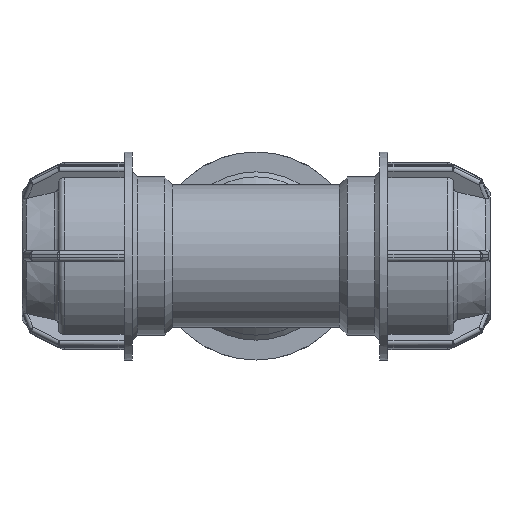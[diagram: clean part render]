
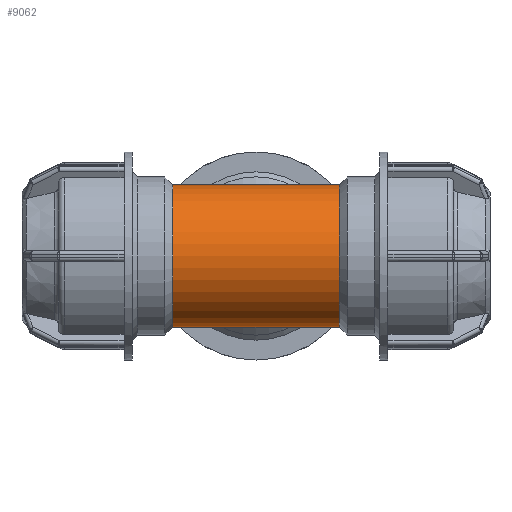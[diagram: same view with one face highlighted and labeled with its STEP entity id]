
A CAD part, front view. The second image highlights one B-rep face of the part: STEP entity #9062.
In plain terms, the highlighted cylindrical face has radius 31.5 mm (diameter 63 mm), a full revolution.
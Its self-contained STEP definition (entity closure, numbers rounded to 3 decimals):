
#15=ELLIPSE('',#9987,44.548,31.5);
#16=ELLIPSE('',#9988,44.548,31.5);
#1920=CYLINDRICAL_SURFACE('',#10008,31.5);
#2009=FACE_BOUND('',#3058,.T.);
#2010=FACE_BOUND('',#3059,.T.);
#2426=FACE_OUTER_BOUND('',#3057,.T.);
#3057=EDGE_LOOP('',(#7731));
#3058=EDGE_LOOP('',(#7732));
#3059=EDGE_LOOP('',(#7733,#7734));
#3271=CIRCLE('',#9264,31.5);
#3277=CIRCLE('',#9274,31.5);
#3775=VERTEX_POINT('',#13134);
#3781=VERTEX_POINT('',#13150);
#4300=VERTEX_POINT('',#16130);
#4301=VERTEX_POINT('',#16131);
#4571=EDGE_CURVE('',#3775,#3775,#3271,.T.);
#4577=EDGE_CURVE('',#3781,#3781,#3277,.T.);
#5467=EDGE_CURVE('',#4300,#4301,#15,.T.);
#5468=EDGE_CURVE('',#4300,#4301,#16,.T.);
#7731=ORIENTED_EDGE('',*,*,#4577,.F.);
#7732=ORIENTED_EDGE('',*,*,#4571,.F.);
#7733=ORIENTED_EDGE('',*,*,#5468,.T.);
#7734=ORIENTED_EDGE('',*,*,#5467,.F.);
#9062=ADVANCED_FACE('',(#2426,#2009,#2010),#1920,.T.);
#9264=AXIS2_PLACEMENT_3D('',#13135,#10376,#10377);
#9274=AXIS2_PLACEMENT_3D('',#13151,#10396,#10397);
#9987=AXIS2_PLACEMENT_3D('',#16132,#12182,#12183);
#9988=AXIS2_PLACEMENT_3D('',#16133,#12184,#12185);
#10008=AXIS2_PLACEMENT_3D('',#16161,#12224,#12225);
#10376=DIRECTION('center_axis',(1.,0.,0.));
#10377=DIRECTION('ref_axis',(0.,0.,-1.));
#10396=DIRECTION('center_axis',(-1.,0.,0.));
#10397=DIRECTION('ref_axis',(0.,0.,-1.));
#12182=DIRECTION('center_axis',(0.707,0.707,0.));
#12183=DIRECTION('ref_axis',(0.707,-0.707,0.));
#12184=DIRECTION('center_axis',(0.707,-0.707,0.));
#12185=DIRECTION('ref_axis',(-0.707,-0.707,0.));
#12224=DIRECTION('center_axis',(1.,0.,0.));
#12225=DIRECTION('ref_axis',(0.,1.,0.));
#13134=CARTESIAN_POINT('',(36.9,31.5,0.));
#13135=CARTESIAN_POINT('Origin',(36.9,0.,0.));
#13150=CARTESIAN_POINT('',(-36.9,-31.5,0.));
#13151=CARTESIAN_POINT('Origin',(-36.9,0.,0.));
#16130=CARTESIAN_POINT('',(0.,0.,
-31.5));
#16131=CARTESIAN_POINT('',(0.,0.,
31.5));
#16132=CARTESIAN_POINT('Origin',(0.,0.,0.));
#16133=CARTESIAN_POINT('Origin',(0.,0.,0.));
#16161=CARTESIAN_POINT('Origin',(18.45,0.,0.));
